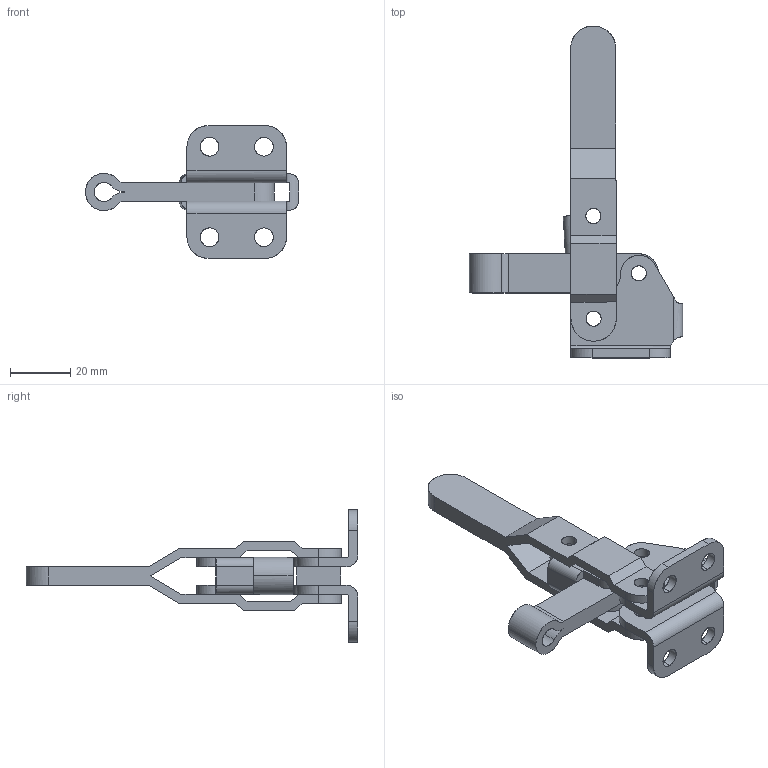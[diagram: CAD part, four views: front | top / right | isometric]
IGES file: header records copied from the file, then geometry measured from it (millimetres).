
Start section: Comment
Global section: file name: 11401.igs; native system:  By Spatial Corp.; preprocessor: XPlus PS/IGES 3.0; author: Author; organization: Title; date: 20050216.164922; units: inch
Bounding box: 70.65 x 109.99 x 44 mm (x, y, z)
Surface area: 18170.5 mm2 (no closed solid volume)
Topology: 0 solids, 0 shells, 140 faces, 804 edges, 804 vertices
Faces by surface type: revolution 78, extrusion 62
